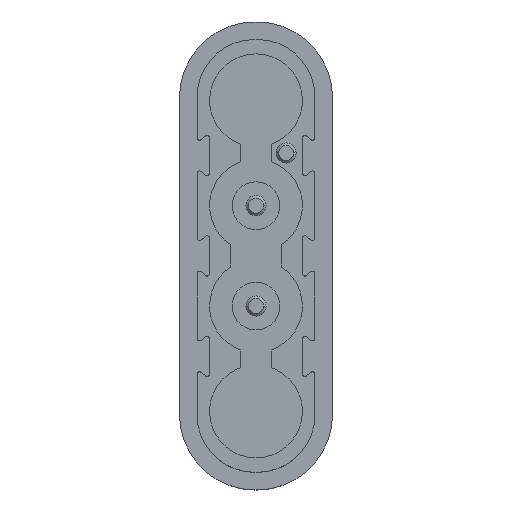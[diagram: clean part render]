
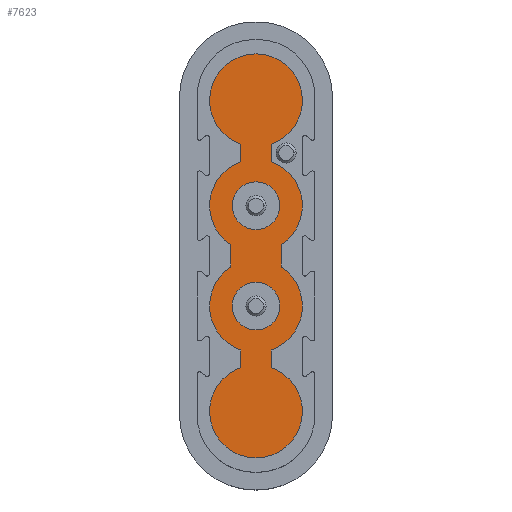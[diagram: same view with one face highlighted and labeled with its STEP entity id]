
A CAD part, top view. The second image highlights one B-rep face of the part: STEP entity #7623.
In plain terms, the highlighted planar face has unit normal (0, 0, 1) as drawn and (0, 0, -1) by its records, which use the part's own axes.
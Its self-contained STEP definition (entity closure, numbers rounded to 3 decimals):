
#6908=DIRECTION('',(0.,-1.,0.));
#6909=VECTOR('',#6908,0.887);
#6910=CARTESIAN_POINT('',(1.,0.444,0.));
#6911=LINE('',#6910,#6909);
#6912=CARTESIAN_POINT('',(0.,2.,0.));
#6913=DIRECTION('',(0.,0.,1.));
#6914=DIRECTION('',(-0.324,0.946,0.));
#6915=AXIS2_PLACEMENT_3D('',#6912,#6913,#6914);
#6917=CARTESIAN_POINT('',(0.,2.,0.));
#6918=DIRECTION('',(0.,0.,1.));
#6919=DIRECTION('',(-1.,0.,0.));
#6920=AXIS2_PLACEMENT_3D('',#6917,#6918,#6919);
#6922=DIRECTION('',(0.,-1.,0.));
#6923=VECTOR('',#6922,0.887);
#6924=CARTESIAN_POINT('',(-1.,0.444,0.));
#6925=LINE('',#6924,#6923);
#6926=CARTESIAN_POINT('',(0.,-2.,0.));
#6927=DIRECTION('',(0.,0.,1.));
#6928=DIRECTION('',(-0.541,0.841,0.));
#6929=AXIS2_PLACEMENT_3D('',#6926,#6927,#6928);
#6931=CARTESIAN_POINT('',(0.,-2.,0.));
#6932=DIRECTION('',(0.,0.,1.));
#6933=DIRECTION('',(-1.,0.,0.));
#6934=AXIS2_PLACEMENT_3D('',#6931,#6932,#6933);
#6936=CARTESIAN_POINT('',(0.,-6.2,0.));
#6937=DIRECTION('',(0.,0.,1.));
#6938=DIRECTION('',(-0.324,0.946,0.));
#6939=AXIS2_PLACEMENT_3D('',#6936,#6937,#6938);
#6941=CARTESIAN_POINT('',(0.,-6.2,0.));
#6942=DIRECTION('',(0.,0.,1.));
#6943=DIRECTION('',(-1.,0.,0.));
#6944=AXIS2_PLACEMENT_3D('',#6941,#6942,#6943);
#6946=CARTESIAN_POINT('',(0.,-6.2,0.));
#6947=DIRECTION('',(0.,0.,1.));
#6948=DIRECTION('',(1.,0.,0.));
#6949=AXIS2_PLACEMENT_3D('',#6946,#6947,#6948);
#6951=CARTESIAN_POINT('',(0.,-2.,0.));
#6952=DIRECTION('',(0.,0.,1.));
#6953=DIRECTION('',(0.324,-0.946,0.));
#6954=AXIS2_PLACEMENT_3D('',#6951,#6952,#6953);
#6956=CARTESIAN_POINT('',(0.,-2.,0.));
#6957=DIRECTION('',(0.,0.,1.));
#6958=DIRECTION('',(1.,0.,0.));
#6959=AXIS2_PLACEMENT_3D('',#6956,#6957,#6958);
#6961=CARTESIAN_POINT('',(0.,2.,0.));
#6962=DIRECTION('',(0.,0.,1.));
#6963=DIRECTION('',(0.541,-0.841,0.));
#6964=AXIS2_PLACEMENT_3D('',#6961,#6962,#6963);
#6966=CARTESIAN_POINT('',(0.,2.,0.));
#6967=DIRECTION('',(0.,0.,1.));
#6968=DIRECTION('',(1.,0.,0.));
#6969=AXIS2_PLACEMENT_3D('',#6966,#6967,#6968);
#6971=CARTESIAN_POINT('',(0.,6.2,0.));
#6972=DIRECTION('',(0.,0.,1.));
#6973=DIRECTION('',(0.324,-0.946,0.));
#6974=AXIS2_PLACEMENT_3D('',#6971,#6972,#6973);
#6976=CARTESIAN_POINT('',(0.,6.2,0.));
#6977=DIRECTION('',(0.,0.,1.));
#6978=DIRECTION('',(1.,0.,0.));
#6979=AXIS2_PLACEMENT_3D('',#6976,#6977,#6978);
#6981=CARTESIAN_POINT('',(0.,6.2,0.));
#6982=DIRECTION('',(0.,0.,1.));
#6983=DIRECTION('',(-1.,0.,0.));
#6984=AXIS2_PLACEMENT_3D('',#6981,#6982,#6983);
#6986=CARTESIAN_POINT('',(0.,2.,0.));
#6987=DIRECTION('',(0.,0.,-1.));
#6988=DIRECTION('',(-1.,0.,0.));
#6989=AXIS2_PLACEMENT_3D('',#6986,#6987,#6988);
#6991=CARTESIAN_POINT('',(0.,2.,0.));
#6992=DIRECTION('',(0.,0.,-1.));
#6993=DIRECTION('',(1.,0.,0.));
#6994=AXIS2_PLACEMENT_3D('',#6991,#6992,#6993);
#6996=CARTESIAN_POINT('',(0.,-2.,0.));
#6997=DIRECTION('',(0.,0.,-1.));
#6998=DIRECTION('',(-1.,0.,0.));
#6999=AXIS2_PLACEMENT_3D('',#6996,#6997,#6998);
#7001=CARTESIAN_POINT('',(0.,-2.,0.));
#7002=DIRECTION('',(0.,0.,-1.));
#7003=DIRECTION('',(1.,0.,0.));
#7004=AXIS2_PLACEMENT_3D('',#7001,#7002,#7003);
#7006=DIRECTION('',(0.,1.,0.));
#7007=VECTOR('',#7006,0.7);
#7008=CARTESIAN_POINT('',(-0.6,3.75,0.));
#7009=LINE('',#7008,#7007);
#7038=DIRECTION('',(0.,-1.,0.));
#7039=VECTOR('',#7038,0.7);
#7040=CARTESIAN_POINT('',(0.6,4.45,0.));
#7041=LINE('',#7040,#7039);
#7086=DIRECTION('',(0.,1.,0.));
#7087=VECTOR('',#7086,0.7);
#7088=CARTESIAN_POINT('',(-0.6,-4.45,0.));
#7089=LINE('',#7088,#7087);
#7118=DIRECTION('',(0.,-1.,0.));
#7119=VECTOR('',#7118,0.7);
#7120=CARTESIAN_POINT('',(0.6,-3.75,0.));
#7121=LINE('',#7120,#7119);
#7244=CARTESIAN_POINT('',(0.95,2.,0.));
#7245=VERTEX_POINT('',#7244);
#7246=CARTESIAN_POINT('',(-0.95,2.,0.));
#7247=VERTEX_POINT('',#7246);
#7284=CARTESIAN_POINT('',(-1.85,-2.,0.));
#7285=VERTEX_POINT('',#7284);
#7286=CARTESIAN_POINT('',(-1.,-0.444,0.));
#7287=VERTEX_POINT('',#7286);
#7288=CARTESIAN_POINT('',(1.85,-2.,0.));
#7289=VERTEX_POINT('',#7288);
#7290=CARTESIAN_POINT('',(0.6,-3.75,0.));
#7291=VERTEX_POINT('',#7290);
#7296=CARTESIAN_POINT('',(-0.6,-3.75,0.));
#7297=VERTEX_POINT('',#7296);
#7298=CARTESIAN_POINT('',(1.,-0.444,0.));
#7299=VERTEX_POINT('',#7298);
#7300=CARTESIAN_POINT('',(1.,0.444,0.));
#7301=VERTEX_POINT('',#7300);
#7302=CARTESIAN_POINT('',(-0.6,3.75,0.));
#7303=CARTESIAN_POINT('',(-0.6,4.45,0.));
#7304=VERTEX_POINT('',#7302);
#7305=VERTEX_POINT('',#7303);
#7306=CARTESIAN_POINT('',(-1.85,2.,0.));
#7307=VERTEX_POINT('',#7306);
#7308=CARTESIAN_POINT('',(-1.,0.444,0.));
#7309=VERTEX_POINT('',#7308);
#7310=CARTESIAN_POINT('',(-0.6,-4.45,0.));
#7311=VERTEX_POINT('',#7310);
#7312=CARTESIAN_POINT('',(-1.85,-6.2,0.));
#7313=VERTEX_POINT('',#7312);
#7314=CARTESIAN_POINT('',(1.85,-6.2,0.));
#7315=VERTEX_POINT('',#7314);
#7316=CARTESIAN_POINT('',(0.6,-4.45,0.));
#7317=VERTEX_POINT('',#7316);
#7318=CARTESIAN_POINT('',(1.85,2.,0.));
#7319=VERTEX_POINT('',#7318);
#7320=CARTESIAN_POINT('',(0.6,3.75,0.));
#7321=VERTEX_POINT('',#7320);
#7322=CARTESIAN_POINT('',(0.6,4.45,0.));
#7323=VERTEX_POINT('',#7322);
#7324=CARTESIAN_POINT('',(1.85,6.2,0.));
#7325=VERTEX_POINT('',#7324);
#7326=CARTESIAN_POINT('',(-1.85,6.2,0.));
#7327=VERTEX_POINT('',#7326);
#7328=CARTESIAN_POINT('',(-0.95,-2.,0.));
#7329=CARTESIAN_POINT('',(0.95,-2.,0.));
#7330=VERTEX_POINT('',#7328);
#7331=VERTEX_POINT('',#7329);
#7570=CARTESIAN_POINT('',(0.,-6.2,0.));
#7571=DIRECTION('',(0.,0.,1.));
#7572=DIRECTION('',(1.,0.,0.));
#7573=AXIS2_PLACEMENT_3D('',#7570,#7571,#7572);
#7574=PLANE('',#7573);
#7576=ORIENTED_EDGE('',*,*,#7575,.F.);
#7578=ORIENTED_EDGE('',*,*,#7577,.T.);
#7580=ORIENTED_EDGE('',*,*,#7579,.T.);
#7582=ORIENTED_EDGE('',*,*,#7581,.T.);
#7583=ORIENTED_EDGE('',*,*,#7512,.T.);
#7584=ORIENTED_EDGE('',*,*,#7535,.T.);
#7586=ORIENTED_EDGE('',*,*,#7585,.F.);
#7588=ORIENTED_EDGE('',*,*,#7587,.T.);
#7590=ORIENTED_EDGE('',*,*,#7589,.T.);
#7592=ORIENTED_EDGE('',*,*,#7591,.T.);
#7594=ORIENTED_EDGE('',*,*,#7593,.F.);
#7595=ORIENTED_EDGE('',*,*,#7527,.T.);
#7596=ORIENTED_EDGE('',*,*,#7550,.T.);
#7597=ORIENTED_EDGE('',*,*,#7561,.F.);
#7599=ORIENTED_EDGE('',*,*,#7598,.T.);
#7601=ORIENTED_EDGE('',*,*,#7600,.T.);
#7603=ORIENTED_EDGE('',*,*,#7602,.F.);
#7605=ORIENTED_EDGE('',*,*,#7604,.T.);
#7607=ORIENTED_EDGE('',*,*,#7606,.T.);
#7609=ORIENTED_EDGE('',*,*,#7608,.T.);
#7610=EDGE_LOOP('',(#7576,#7578,#7580,#7582,#7583,#7584,#7586,#7588,#7590,#7592,
#7594,#7595,#7596,#7597,#7599,#7601,#7603,#7605,#7607,#7609));
#7611=FACE_OUTER_BOUND('',#7610,.F.);
#7612=ORIENTED_EDGE('',*,*,#7377,.T.);
#7614=ORIENTED_EDGE('',*,*,#7613,.T.);
#7615=EDGE_LOOP('',(#7612,#7614));
#7616=FACE_BOUND('',#7615,.F.);
#7618=ORIENTED_EDGE('',*,*,#7617,.T.);
#7620=ORIENTED_EDGE('',*,*,#7619,.T.);
#7621=EDGE_LOOP('',(#7618,#7620));
#7622=FACE_BOUND('',#7621,.F.);
#7623=ADVANCED_FACE('',(#7611,#7616,#7622),#7574,.F.);
#6916=CIRCLE('',#6915,1.85);
#6921=CIRCLE('',#6920,1.85);
#6930=CIRCLE('',#6929,1.85);
#6935=CIRCLE('',#6934,1.85);
#6940=CIRCLE('',#6939,1.85);
#6945=CIRCLE('',#6944,1.85);
#6950=CIRCLE('',#6949,1.85);
#6955=CIRCLE('',#6954,1.85);
#6960=CIRCLE('',#6959,1.85);
#6965=CIRCLE('',#6964,1.85);
#6970=CIRCLE('',#6969,1.85);
#6975=CIRCLE('',#6974,1.85);
#6980=CIRCLE('',#6979,1.85);
#6985=CIRCLE('',#6984,1.85);
#6990=CIRCLE('',#6989,0.95);
#6995=CIRCLE('',#6994,0.95);
#7000=CIRCLE('',#6999,0.95);
#7005=CIRCLE('',#7004,0.95);
#7377=EDGE_CURVE('',#7247,#7245,#6990,.T.);
#7512=EDGE_CURVE('',#7287,#7285,#6930,.T.);
#7527=EDGE_CURVE('',#7291,#7289,#6955,.T.);
#7535=EDGE_CURVE('',#7285,#7297,#6935,.T.);
#7550=EDGE_CURVE('',#7289,#7299,#6960,.T.);
#7561=EDGE_CURVE('',#7301,#7299,#6911,.T.);
#7575=EDGE_CURVE('',#7304,#7305,#7009,.T.);
#7577=EDGE_CURVE('',#7304,#7307,#6916,.T.);
#7579=EDGE_CURVE('',#7307,#7309,#6921,.T.);
#7581=EDGE_CURVE('',#7309,#7287,#6925,.T.);
#7585=EDGE_CURVE('',#7311,#7297,#7089,.T.);
#7587=EDGE_CURVE('',#7311,#7313,#6940,.T.);
#7589=EDGE_CURVE('',#7313,#7315,#6945,.T.);
#7591=EDGE_CURVE('',#7315,#7317,#6950,.T.);
#7593=EDGE_CURVE('',#7291,#7317,#7121,.T.);
#7598=EDGE_CURVE('',#7301,#7319,#6965,.T.);
#7600=EDGE_CURVE('',#7319,#7321,#6970,.T.);
#7602=EDGE_CURVE('',#7323,#7321,#7041,.T.);
#7604=EDGE_CURVE('',#7323,#7325,#6975,.T.);
#7606=EDGE_CURVE('',#7325,#7327,#6980,.T.);
#7608=EDGE_CURVE('',#7327,#7305,#6985,.T.);
#7613=EDGE_CURVE('',#7245,#7247,#6995,.T.);
#7617=EDGE_CURVE('',#7330,#7331,#7000,.T.);
#7619=EDGE_CURVE('',#7331,#7330,#7005,.T.);
